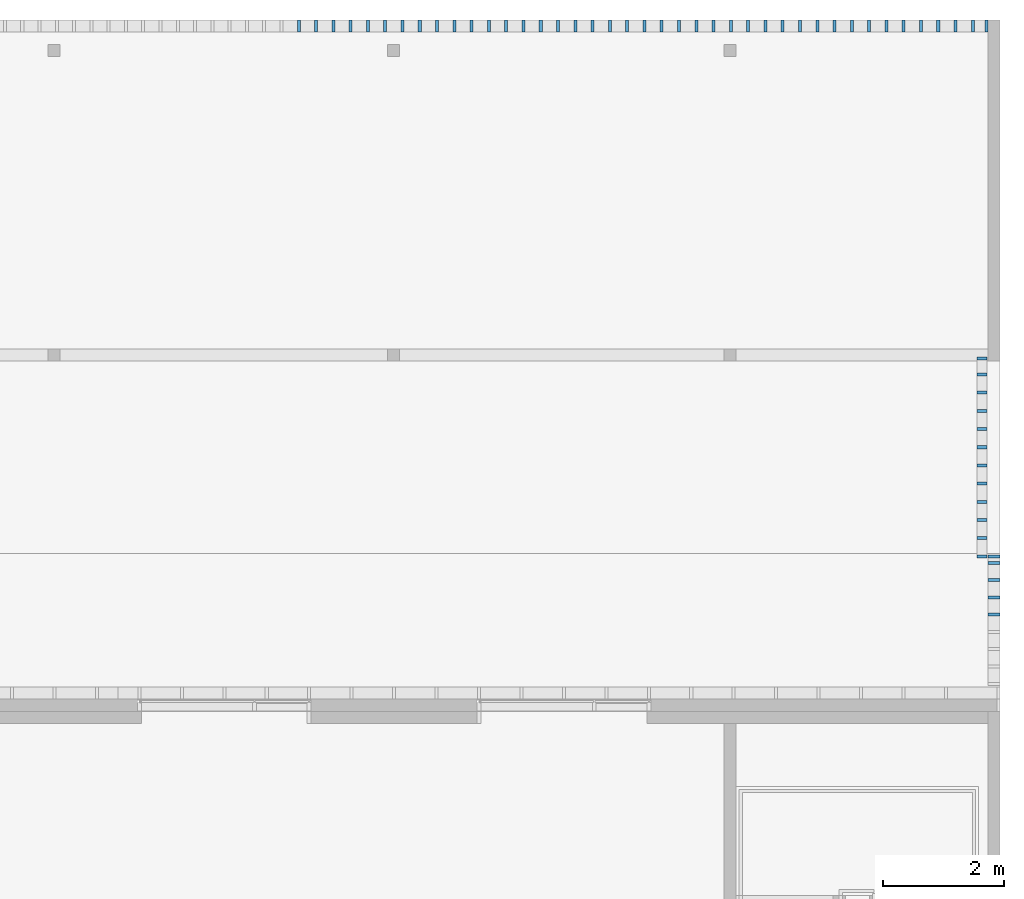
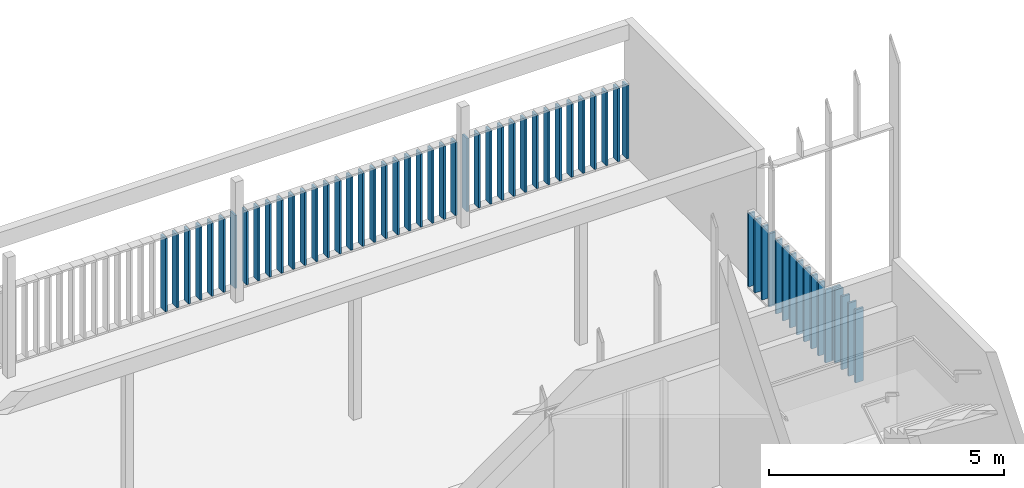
# One storey, part 30 of 240: 58 members, 3 elements without a shape of their own.
"""IFC2X3 building model written with IfcOpenShell, lengths in centimetres."""

from ifc_helpers import new_model, entity, si_unit, converted_unit, derived_unit, direction, frame, origin, origin_2d_with_axis, place, context, subcontext, project, spatial, rectangle, extrude, source, transform, mapped, material, type_object, type_shapes, element, aggregate, save


model = new_model("IFC2X3")

# Units and contexts
model_context = context("Model", 3, precision=0.001, world=origin(), true_north=direction((6.12303176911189e-17, 1.0)))
body_context = subcontext(model_context, "Body", "Model", "MODEL_VIEW")
ifc_project = project(units=[si_unit("LENGTHUNIT", "METRE", prefix="CENTI"), si_unit("AREAUNIT", "SQUARE_METRE"), si_unit("VOLUMEUNIT", "CUBIC_METRE"), converted_unit("PLANEANGLEUNIT", "DEGREE", entity("IfcRatioMeasure", 0.0174532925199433), si_unit("PLANEANGLEUNIT", "RADIAN"), dimensions=[0, 0, 0, 0, 0, 0, 0]), si_unit("MASSUNIT", "GRAM", prefix="KILO"), derived_unit("MASSDENSITYUNIT", [(si_unit("MASSUNIT", "GRAM", prefix="KILO"), 1), (si_unit("LENGTHUNIT", "METRE"), -3)]), si_unit("TIMEUNIT", "SECOND"), si_unit("FREQUENCYUNIT", "HERTZ"), si_unit("THERMODYNAMICTEMPERATUREUNIT", "DEGREE_CELSIUS"), derived_unit("THERMALTRANSMITTANCEUNIT", [(si_unit("MASSUNIT", "GRAM", prefix="KILO"), 1), (si_unit("THERMODYNAMICTEMPERATUREUNIT", "KELVIN"), -1), (si_unit("TIMEUNIT", "SECOND"), -3)]), derived_unit("VOLUMETRICFLOWRATEUNIT", [(si_unit("LENGTHUNIT", "METRE"), 3), (si_unit("TIMEUNIT", "SECOND"), -1)]), si_unit("ELECTRICCURRENTUNIT", "AMPERE"), si_unit("ELECTRICVOLTAGEUNIT", "VOLT"), si_unit("POWERUNIT", "WATT"), si_unit("FORCEUNIT", "NEWTON", prefix="KILO"), si_unit("ILLUMINANCEUNIT", "LUX"), si_unit("LUMINOUSFLUXUNIT", "LUMEN"), si_unit("LUMINOUSINTENSITYUNIT", "CANDELA"), derived_unit("USERDEFINED", [(si_unit("MASSUNIT", "GRAM", prefix="KILO"), -1), (si_unit("LENGTHUNIT", "METRE"), -2), (si_unit("TIMEUNIT", "SECOND"), 3), (si_unit("LUMINOUSFLUXUNIT", "LUMEN"), 1)]), derived_unit("LINEARVELOCITYUNIT", [(si_unit("LENGTHUNIT", "METRE"), 1), (si_unit("TIMEUNIT", "SECOND"), -1)]), si_unit("PRESSUREUNIT", "PASCAL"), derived_unit("USERDEFINED", [(si_unit("LENGTHUNIT", "METRE"), -2), (si_unit("MASSUNIT", "GRAM", prefix="KILO"), 1), (si_unit("TIMEUNIT", "SECOND"), -2)])], contexts=[model_context])

# Site, building, storey
site_placement = place(None, frame((-2781.94577612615, 7442.24238424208, 0.0)))
site = spatial("IfcSite", under=ifc_project, at=site_placement, Name="Default", CompositionType="ELEMENT")
building_placement = place(site_placement, origin())
building = spatial("IfcBuilding", under=site, at=building_placement, CompositionType="ELEMENT")
storey_placement = place(building_placement, origin())
storey = spatial("IfcBuildingStorey", under=building, at=storey_placement, Name="N00 - COO", CompositionType="ELEMENT", Elevation=0.0)

# Curtain wall, members
curtain_wall_type_1 = type_object("IfcCurtainWallType", Name="Mur-rideau:SR-Clôture", PredefinedType="NOTDEFINED")
curtain_wall_1_placement = place(building_placement, origin())
curtain_wall_1 = element("IfcCurtainWall", 1, at=curtain_wall_1_placement, inside=storey, type_object=curtain_wall_type_1, Name="Mur-rideau:SR-Clôture", ObjectType="Mur-rideau:SR-Clôture")
ifc_material = material(Name="Aluminium")
member_type_1 = type_object("IfcMemberType", Name="Epine nord (200x50 mm)", PredefinedType="MEMBER")
shared_shape_1 = source(origin(), body_context, "Body", "SweptSolid", [
    extrude(rectangle(XDim=20.0, YDim=5.0, at=origin_2d_with_axis()), frame((0.0, 0.0, -190.0), z_axis=(0.0, 0.0, 1.0), x_axis=(0.0, -1.0, 0.0)), (0.0, 0.0, 1.0), 190.0),
])
type_shapes(member_type_1, [shared_shape_1])
member_1_placement = place(building_placement, frame((-1546.49987965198, 40.0, 5.0), z_axis=(0.0, 0.0, -1.0), x_axis=(1.0, 0.0, 0.0)))
member_1 = element("IfcMember", 2, at=member_1_placement, type_object=member_type_1, material=ifc_material, Name="Meneau rectangulaire:Epine nord (200x50 mm)", ObjectType="Meneau rectangulaire:Epine nord (200x50 mm)", context=body_context, shape_type="MappedRepresentation", body=[
    mapped(shared_shape_1, transform((0.0, 0.0, 0.0), scale=1.0)),
])
member_2_placement = place(building_placement, frame((-1517.99987965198, 40.0, 5.0), z_axis=(0.0, 0.0, -1.0), x_axis=(1.0, 0.0, 0.0)))
member_2 = element("IfcMember", 3, at=member_2_placement, type_object=member_type_1, material=ifc_material, Name="Meneau rectangulaire:Epine nord (200x50 mm)", ObjectType="Meneau rectangulaire:Epine nord (200x50 mm)", context=body_context, shape_type="MappedRepresentation", body=[
    mapped(shared_shape_1, transform((0.0, 0.0, 0.0), scale=1.0)),
])
member_3_placement = place(building_placement, frame((-1489.49987965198, 40.0, 5.0), z_axis=(0.0, 0.0, -1.0), x_axis=(1.0, 0.0, 0.0)))
member_3 = element("IfcMember", 4, at=member_3_placement, type_object=member_type_1, material=ifc_material, Name="Meneau rectangulaire:Epine nord (200x50 mm)", ObjectType="Meneau rectangulaire:Epine nord (200x50 mm)", context=body_context, shape_type="MappedRepresentation", body=[
    mapped(shared_shape_1, transform((0.0, 0.0, 0.0), scale=1.0)),
])
member_4_placement = place(building_placement, frame((-1460.99987965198, 40.0, 5.0), z_axis=(0.0, 0.0, -1.0), x_axis=(1.0, 0.0, 0.0)))
member_4 = element("IfcMember", 5, at=member_4_placement, type_object=member_type_1, material=ifc_material, Name="Meneau rectangulaire:Epine nord (200x50 mm)", ObjectType="Meneau rectangulaire:Epine nord (200x50 mm)", context=body_context, shape_type="MappedRepresentation", body=[
    mapped(shared_shape_1, transform((0.0, 0.0, 0.0), scale=1.0)),
])
member_5_placement = place(building_placement, frame((-1432.49987965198, 40.0, 5.0), z_axis=(0.0, 0.0, -1.0), x_axis=(1.0, 0.0, 0.0)))
member_5 = element("IfcMember", 6, at=member_5_placement, type_object=member_type_1, material=ifc_material, Name="Meneau rectangulaire:Epine nord (200x50 mm)", ObjectType="Meneau rectangulaire:Epine nord (200x50 mm)", context=body_context, shape_type="MappedRepresentation", body=[
    mapped(shared_shape_1, transform((0.0, 0.0, 0.0), scale=1.0)),
])
member_6_placement = place(building_placement, frame((-1403.99987965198, 40.0, 5.0), z_axis=(0.0, 0.0, -1.0), x_axis=(1.0, 0.0, 0.0)))
member_6 = element("IfcMember", 7, at=member_6_placement, type_object=member_type_1, material=ifc_material, Name="Meneau rectangulaire:Epine nord (200x50 mm)", ObjectType="Meneau rectangulaire:Epine nord (200x50 mm)", context=body_context, shape_type="MappedRepresentation", body=[
    mapped(shared_shape_1, transform((0.0, 0.0, 0.0), scale=1.0)),
])
member_7_placement = place(building_placement, frame((-1375.49987965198, 40.0, 5.0), z_axis=(0.0, 0.0, -1.0), x_axis=(1.0, 0.0, 0.0)))
member_7 = element("IfcMember", 8, at=member_7_placement, type_object=member_type_1, material=ifc_material, Name="Meneau rectangulaire:Epine nord (200x50 mm)", ObjectType="Meneau rectangulaire:Epine nord (200x50 mm)", context=body_context, shape_type="MappedRepresentation", body=[
    mapped(shared_shape_1, transform((0.0, 0.0, 0.0), scale=1.0)),
])
member_8_placement = place(building_placement, frame((-1346.99987965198, 40.0, 5.0), z_axis=(0.0, 0.0, -1.0), x_axis=(1.0, 0.0, 0.0)))
member_8 = element("IfcMember", 9, at=member_8_placement, type_object=member_type_1, material=ifc_material, Name="Meneau rectangulaire:Epine nord (200x50 mm)", ObjectType="Meneau rectangulaire:Epine nord (200x50 mm)", context=body_context, shape_type="MappedRepresentation", body=[
    mapped(shared_shape_1, transform((0.0, 0.0, 0.0), scale=1.0)),
])
member_9_placement = place(building_placement, frame((-1318.49987965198, 40.0, 5.0), z_axis=(0.0, 0.0, -1.0), x_axis=(1.0, 0.0, 0.0)))
member_9 = element("IfcMember", 10, at=member_9_placement, type_object=member_type_1, material=ifc_material, Name="Meneau rectangulaire:Epine nord (200x50 mm)", ObjectType="Meneau rectangulaire:Epine nord (200x50 mm)", context=body_context, shape_type="MappedRepresentation", body=[
    mapped(shared_shape_1, transform((0.0, 0.0, 0.0), scale=1.0)),
])
member_10_placement = place(building_placement, frame((-1289.99987965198, 40.0, 5.0), z_axis=(0.0, 0.0, -1.0), x_axis=(1.0, 0.0, 0.0)))
member_10 = element("IfcMember", 11, at=member_10_placement, type_object=member_type_1, material=ifc_material, Name="Meneau rectangulaire:Epine nord (200x50 mm)", ObjectType="Meneau rectangulaire:Epine nord (200x50 mm)", context=body_context, shape_type="MappedRepresentation", body=[
    mapped(shared_shape_1, transform((0.0, 0.0, 0.0), scale=1.0)),
])
member_11_placement = place(building_placement, frame((-1261.49987965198, 40.0, 5.0), z_axis=(0.0, 0.0, -1.0), x_axis=(1.0, 0.0, 0.0)))
member_11 = element("IfcMember", 12, at=member_11_placement, type_object=member_type_1, material=ifc_material, Name="Meneau rectangulaire:Epine nord (200x50 mm)", ObjectType="Meneau rectangulaire:Epine nord (200x50 mm)", context=body_context, shape_type="MappedRepresentation", body=[
    mapped(shared_shape_1, transform((0.0, 0.0, 0.0), scale=1.0)),
])
member_12_placement = place(building_placement, frame((-1232.99987965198, 40.0, 5.0), z_axis=(0.0, 0.0, -1.0), x_axis=(1.0, 0.0, 0.0)))
member_12 = element("IfcMember", 13, at=member_12_placement, type_object=member_type_1, material=ifc_material, Name="Meneau rectangulaire:Epine nord (200x50 mm)", ObjectType="Meneau rectangulaire:Epine nord (200x50 mm)", context=body_context, shape_type="MappedRepresentation", body=[
    mapped(shared_shape_1, transform((0.0, 0.0, 0.0), scale=1.0)),
])
member_13_placement = place(building_placement, frame((-1204.49987965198, 40.0, 5.0), z_axis=(0.0, 0.0, -1.0), x_axis=(1.0, 0.0, 0.0)))
member_13 = element("IfcMember", 14, at=member_13_placement, type_object=member_type_1, material=ifc_material, Name="Meneau rectangulaire:Epine nord (200x50 mm)", ObjectType="Meneau rectangulaire:Epine nord (200x50 mm)", context=body_context, shape_type="MappedRepresentation", body=[
    mapped(shared_shape_1, transform((0.0, 0.0, 0.0), scale=1.0)),
])
member_14_placement = place(building_placement, frame((-1175.99987965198, 40.0, 5.0), z_axis=(0.0, 0.0, -1.0), x_axis=(1.0, 0.0, 0.0)))
member_14 = element("IfcMember", 15, at=member_14_placement, type_object=member_type_1, material=ifc_material, Name="Meneau rectangulaire:Epine nord (200x50 mm)", ObjectType="Meneau rectangulaire:Epine nord (200x50 mm)", context=body_context, shape_type="MappedRepresentation", body=[
    mapped(shared_shape_1, transform((0.0, 0.0, 0.0), scale=1.0)),
])
member_15_placement = place(building_placement, frame((-1147.49987965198, 40.0, 5.0), z_axis=(0.0, 0.0, -1.0), x_axis=(1.0, 0.0, 0.0)))
member_15 = element("IfcMember", 16, at=member_15_placement, type_object=member_type_1, material=ifc_material, Name="Meneau rectangulaire:Epine nord (200x50 mm)", ObjectType="Meneau rectangulaire:Epine nord (200x50 mm)", context=body_context, shape_type="MappedRepresentation", body=[
    mapped(shared_shape_1, transform((0.0, 0.0, 0.0), scale=1.0)),
])
member_16_placement = place(building_placement, frame((-1118.99987965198, 40.0, 5.0), z_axis=(0.0, 0.0, -1.0), x_axis=(1.0, 0.0, 0.0)))
member_16 = element("IfcMember", 17, at=member_16_placement, type_object=member_type_1, material=ifc_material, Name="Meneau rectangulaire:Epine nord (200x50 mm)", ObjectType="Meneau rectangulaire:Epine nord (200x50 mm)", context=body_context, shape_type="MappedRepresentation", body=[
    mapped(shared_shape_1, transform((0.0, 0.0, 0.0), scale=1.0)),
])
member_17_placement = place(building_placement, frame((-1090.49987965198, 40.0, 5.0), z_axis=(0.0, 0.0, -1.0), x_axis=(1.0, 0.0, 0.0)))
member_17 = element("IfcMember", 18, at=member_17_placement, type_object=member_type_1, material=ifc_material, Name="Meneau rectangulaire:Epine nord (200x50 mm)", ObjectType="Meneau rectangulaire:Epine nord (200x50 mm)", context=body_context, shape_type="MappedRepresentation", body=[
    mapped(shared_shape_1, transform((0.0, 0.0, 0.0), scale=1.0)),
])
member_18_placement = place(building_placement, frame((-1061.99987965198, 40.0, 5.0), z_axis=(0.0, 0.0, -1.0), x_axis=(1.0, 0.0, 0.0)))
member_18 = element("IfcMember", 19, at=member_18_placement, type_object=member_type_1, material=ifc_material, Name="Meneau rectangulaire:Epine nord (200x50 mm)", ObjectType="Meneau rectangulaire:Epine nord (200x50 mm)", context=body_context, shape_type="MappedRepresentation", body=[
    mapped(shared_shape_1, transform((0.0, 0.0, 0.0), scale=1.0)),
])
member_19_placement = place(building_placement, frame((-1033.49987965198, 40.0, 5.0), z_axis=(0.0, 0.0, -1.0), x_axis=(1.0, 0.0, 0.0)))
member_19 = element("IfcMember", 20, at=member_19_placement, type_object=member_type_1, material=ifc_material, Name="Meneau rectangulaire:Epine nord (200x50 mm)", ObjectType="Meneau rectangulaire:Epine nord (200x50 mm)", context=body_context, shape_type="MappedRepresentation", body=[
    mapped(shared_shape_1, transform((0.0, 0.0, 0.0), scale=1.0)),
])
member_20_placement = place(building_placement, frame((-1004.99987965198, 40.0, 5.0), z_axis=(0.0, 0.0, -1.0), x_axis=(1.0, 0.0, 0.0)))
member_20 = element("IfcMember", 21, at=member_20_placement, type_object=member_type_1, material=ifc_material, Name="Meneau rectangulaire:Epine nord (200x50 mm)", ObjectType="Meneau rectangulaire:Epine nord (200x50 mm)", context=body_context, shape_type="MappedRepresentation", body=[
    mapped(shared_shape_1, transform((0.0, 0.0, 0.0), scale=1.0)),
])
member_21_placement = place(building_placement, frame((-976.499879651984, 40.0, 5.0), z_axis=(0.0, 0.0, -1.0), x_axis=(1.0, 0.0, 0.0)))
member_21 = element("IfcMember", 22, at=member_21_placement, type_object=member_type_1, material=ifc_material, Name="Meneau rectangulaire:Epine nord (200x50 mm)", ObjectType="Meneau rectangulaire:Epine nord (200x50 mm)", context=body_context, shape_type="MappedRepresentation", body=[
    mapped(shared_shape_1, transform((0.0, 0.0, 0.0), scale=1.0)),
])
member_22_placement = place(building_placement, frame((-947.999879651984, 40.0, 5.0), z_axis=(0.0, 0.0, -1.0), x_axis=(1.0, 0.0, 0.0)))
member_22 = element("IfcMember", 23, at=member_22_placement, type_object=member_type_1, material=ifc_material, Name="Meneau rectangulaire:Epine nord (200x50 mm)", ObjectType="Meneau rectangulaire:Epine nord (200x50 mm)", context=body_context, shape_type="MappedRepresentation", body=[
    mapped(shared_shape_1, transform((0.0, 0.0, 0.0), scale=1.0)),
])
member_23_placement = place(building_placement, frame((-919.499879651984, 40.0, 5.0), z_axis=(0.0, 0.0, -1.0), x_axis=(1.0, 0.0, 0.0)))
member_23 = element("IfcMember", 24, at=member_23_placement, type_object=member_type_1, material=ifc_material, Name="Meneau rectangulaire:Epine nord (200x50 mm)", ObjectType="Meneau rectangulaire:Epine nord (200x50 mm)", context=body_context, shape_type="MappedRepresentation", body=[
    mapped(shared_shape_1, transform((0.0, 0.0, 0.0), scale=1.0)),
])
member_24_placement = place(building_placement, frame((-890.999879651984, 40.0, 5.0), z_axis=(0.0, 0.0, -1.0), x_axis=(1.0, 0.0, 0.0)))
member_24 = element("IfcMember", 25, at=member_24_placement, type_object=member_type_1, material=ifc_material, Name="Meneau rectangulaire:Epine nord (200x50 mm)", ObjectType="Meneau rectangulaire:Epine nord (200x50 mm)", context=body_context, shape_type="MappedRepresentation", body=[
    mapped(shared_shape_1, transform((0.0, 0.0, 0.0), scale=1.0)),
])
member_25_placement = place(building_placement, frame((-862.499879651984, 40.0, 5.0), z_axis=(0.0, 0.0, -1.0), x_axis=(1.0, 0.0, 0.0)))
member_25 = element("IfcMember", 26, at=member_25_placement, type_object=member_type_1, material=ifc_material, Name="Meneau rectangulaire:Epine nord (200x50 mm)", ObjectType="Meneau rectangulaire:Epine nord (200x50 mm)", context=body_context, shape_type="MappedRepresentation", body=[
    mapped(shared_shape_1, transform((0.0, 0.0, 0.0), scale=1.0)),
])
member_26_placement = place(building_placement, frame((-833.999879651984, 40.0, 5.0), z_axis=(0.0, 0.0, -1.0), x_axis=(1.0, 0.0, 0.0)))
member_26 = element("IfcMember", 27, at=member_26_placement, type_object=member_type_1, material=ifc_material, Name="Meneau rectangulaire:Epine nord (200x50 mm)", ObjectType="Meneau rectangulaire:Epine nord (200x50 mm)", context=body_context, shape_type="MappedRepresentation", body=[
    mapped(shared_shape_1, transform((0.0, 0.0, 0.0), scale=1.0)),
])
member_27_placement = place(building_placement, frame((-805.499879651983, 40.0, 5.0), z_axis=(0.0, 0.0, -1.0), x_axis=(1.0, 0.0, 0.0)))
member_27 = element("IfcMember", 28, at=member_27_placement, type_object=member_type_1, material=ifc_material, Name="Meneau rectangulaire:Epine nord (200x50 mm)", ObjectType="Meneau rectangulaire:Epine nord (200x50 mm)", context=body_context, shape_type="MappedRepresentation", body=[
    mapped(shared_shape_1, transform((0.0, 0.0, 0.0), scale=1.0)),
])
member_28_placement = place(building_placement, frame((-776.999879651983, 40.0, 5.0), z_axis=(0.0, 0.0, -1.0), x_axis=(1.0, 0.0, 0.0)))
member_28 = element("IfcMember", 29, at=member_28_placement, type_object=member_type_1, material=ifc_material, Name="Meneau rectangulaire:Epine nord (200x50 mm)", ObjectType="Meneau rectangulaire:Epine nord (200x50 mm)", context=body_context, shape_type="MappedRepresentation", body=[
    mapped(shared_shape_1, transform((0.0, 0.0, 0.0), scale=1.0)),
])
member_29_placement = place(building_placement, frame((-748.499879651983, 40.0, 5.0), z_axis=(0.0, 0.0, -1.0), x_axis=(1.0, 0.0, 0.0)))
member_29 = element("IfcMember", 30, at=member_29_placement, type_object=member_type_1, material=ifc_material, Name="Meneau rectangulaire:Epine nord (200x50 mm)", ObjectType="Meneau rectangulaire:Epine nord (200x50 mm)", context=body_context, shape_type="MappedRepresentation", body=[
    mapped(shared_shape_1, transform((0.0, 0.0, 0.0), scale=1.0)),
])
member_30_placement = place(building_placement, frame((-719.999879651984, 40.0, 5.0), z_axis=(0.0, 0.0, -1.0), x_axis=(1.0, 0.0, 0.0)))
member_30 = element("IfcMember", 31, at=member_30_placement, type_object=member_type_1, material=ifc_material, Name="Meneau rectangulaire:Epine nord (200x50 mm)", ObjectType="Meneau rectangulaire:Epine nord (200x50 mm)", context=body_context, shape_type="MappedRepresentation", body=[
    mapped(shared_shape_1, transform((0.0, 0.0, 0.0), scale=1.0)),
])
member_31_placement = place(building_placement, frame((-691.499879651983, 40.0, 5.0), z_axis=(0.0, 0.0, -1.0), x_axis=(1.0, 0.0, 0.0)))
member_31 = element("IfcMember", 32, at=member_31_placement, type_object=member_type_1, material=ifc_material, Name="Meneau rectangulaire:Epine nord (200x50 mm)", ObjectType="Meneau rectangulaire:Epine nord (200x50 mm)", context=body_context, shape_type="MappedRepresentation", body=[
    mapped(shared_shape_1, transform((0.0, 0.0, 0.0), scale=1.0)),
])
member_32_placement = place(building_placement, frame((-662.999879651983, 40.0, 5.0), z_axis=(0.0, 0.0, -1.0), x_axis=(1.0, 0.0, 0.0)))
member_32 = element("IfcMember", 33, at=member_32_placement, type_object=member_type_1, material=ifc_material, Name="Meneau rectangulaire:Epine nord (200x50 mm)", ObjectType="Meneau rectangulaire:Epine nord (200x50 mm)", context=body_context, shape_type="MappedRepresentation", body=[
    mapped(shared_shape_1, transform((0.0, 0.0, 0.0), scale=1.0)),
])
member_33_placement = place(building_placement, frame((-634.499879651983, 40.0, 5.0), z_axis=(0.0, 0.0, -1.0), x_axis=(1.0, 0.0, 0.0)))
member_33 = element("IfcMember", 34, at=member_33_placement, type_object=member_type_1, material=ifc_material, Name="Meneau rectangulaire:Epine nord (200x50 mm)", ObjectType="Meneau rectangulaire:Epine nord (200x50 mm)", context=body_context, shape_type="MappedRepresentation", body=[
    mapped(shared_shape_1, transform((0.0, 0.0, 0.0), scale=1.0)),
])
member_34_placement = place(building_placement, frame((-605.999879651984, 40.0, 5.0), z_axis=(0.0, 0.0, -1.0), x_axis=(1.0, 0.0, 0.0)))
member_34 = element("IfcMember", 35, at=member_34_placement, type_object=member_type_1, material=ifc_material, Name="Meneau rectangulaire:Epine nord (200x50 mm)", ObjectType="Meneau rectangulaire:Epine nord (200x50 mm)", context=body_context, shape_type="MappedRepresentation", body=[
    mapped(shared_shape_1, transform((0.0, 0.0, 0.0), scale=1.0)),
])
member_35_placement = place(building_placement, frame((-577.499879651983, 40.0, 5.0), z_axis=(0.0, 0.0, -1.0), x_axis=(1.0, 0.0, 0.0)))
member_35 = element("IfcMember", 36, at=member_35_placement, type_object=member_type_1, material=ifc_material, Name="Meneau rectangulaire:Epine nord (200x50 mm)", ObjectType="Meneau rectangulaire:Epine nord (200x50 mm)", context=body_context, shape_type="MappedRepresentation", body=[
    mapped(shared_shape_1, transform((0.0, 0.0, 0.0), scale=1.0)),
])
member_36_placement = place(building_placement, frame((-548.999879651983, 40.0, 5.0), z_axis=(0.0, 0.0, -1.0), x_axis=(1.0, 0.0, 0.0)))
member_36 = element("IfcMember", 37, at=member_36_placement, type_object=member_type_1, material=ifc_material, Name="Meneau rectangulaire:Epine nord (200x50 mm)", ObjectType="Meneau rectangulaire:Epine nord (200x50 mm)", context=body_context, shape_type="MappedRepresentation", body=[
    mapped(shared_shape_1, transform((0.0, 0.0, 0.0), scale=1.0)),
])
member_37_placement = place(building_placement, frame((-520.499879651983, 40.0, 5.0), z_axis=(0.0, 0.0, -1.0), x_axis=(1.0, 0.0, 0.0)))
member_37 = element("IfcMember", 38, at=member_37_placement, type_object=member_type_1, material=ifc_material, Name="Meneau rectangulaire:Epine nord (200x50 mm)", ObjectType="Meneau rectangulaire:Epine nord (200x50 mm)", context=body_context, shape_type="MappedRepresentation", body=[
    mapped(shared_shape_1, transform((0.0, 0.0, 0.0), scale=1.0)),
])
member_38_placement = place(building_placement, frame((-491.999879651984, 40.0, 5.0), z_axis=(0.0, 0.0, -1.0), x_axis=(1.0, 0.0, 0.0)))
member_38 = element("IfcMember", 39, at=member_38_placement, type_object=member_type_1, material=ifc_material, Name="Meneau rectangulaire:Epine nord (200x50 mm)", ObjectType="Meneau rectangulaire:Epine nord (200x50 mm)", context=body_context, shape_type="MappedRepresentation", body=[
    mapped(shared_shape_1, transform((0.0, 0.0, 0.0), scale=1.0)),
])
member_39_placement = place(building_placement, frame((-463.499879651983, 40.0, 5.0), z_axis=(0.0, 0.0, -1.0), x_axis=(1.0, 0.0, 0.0)))
member_39 = element("IfcMember", 40, at=member_39_placement, type_object=member_type_1, material=ifc_material, Name="Meneau rectangulaire:Epine nord (200x50 mm)", ObjectType="Meneau rectangulaire:Epine nord (200x50 mm)", context=body_context, shape_type="MappedRepresentation", body=[
    mapped(shared_shape_1, transform((0.0, 0.0, 0.0), scale=1.0)),
])
member_40_placement = place(building_placement, frame((-434.999879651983, 40.0, 5.0), z_axis=(0.0, 0.0, -1.0), x_axis=(1.0, 0.0, 0.0)))
member_40 = element("IfcMember", 41, at=member_40_placement, type_object=member_type_1, material=ifc_material, Name="Meneau rectangulaire:Epine nord (200x50 mm)", ObjectType="Meneau rectangulaire:Epine nord (200x50 mm)", context=body_context, shape_type="MappedRepresentation", body=[
    mapped(shared_shape_1, transform((0.0, 0.0, 0.0), scale=1.0)),
])

curtain_wall_2_placement = place(building_placement, origin())
curtain_wall_2 = element("IfcCurtainWall", 42, at=curtain_wall_2_placement, inside=storey, type_object=curtain_wall_type_1, Name="Mur-rideau:SR-Clôture", ObjectType="Mur-rideau:SR-Clôture")
member_41_placement = place(building_placement, frame((-399.999882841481, -930.548500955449, 5.0), z_axis=(0.0, 0.0, -1.0), x_axis=(0.0, 1.0, 0.0)))
member_41 = element("IfcMember", 43, at=member_41_placement, type_object=member_type_1, material=ifc_material, Name="Meneau rectangulaire:Epine nord (200x50 mm)", ObjectType="Meneau rectangulaire:Epine nord (200x50 mm)", context=body_context, shape_type="MappedRepresentation", body=[
    mapped(shared_shape_1, transform((0.0, 0.0, 0.0), scale=1.0)),
])
member_42_placement = place(building_placement, frame((-399.999882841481, -902.048500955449, 5.0), z_axis=(0.0, 0.0, -1.0), x_axis=(0.0, 1.0, 0.0)))
member_42 = element("IfcMember", 44, at=member_42_placement, type_object=member_type_1, material=ifc_material, Name="Meneau rectangulaire:Epine nord (200x50 mm)", ObjectType="Meneau rectangulaire:Epine nord (200x50 mm)", context=body_context, shape_type="MappedRepresentation", body=[
    mapped(shared_shape_1, transform((0.0, 0.0, 0.0), scale=1.0)),
])
member_43_placement = place(building_placement, frame((-399.999882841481, -873.548500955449, 5.0), z_axis=(0.0, 0.0, -1.0), x_axis=(0.0, 1.0, 0.0)))
member_43 = element("IfcMember", 45, at=member_43_placement, type_object=member_type_1, material=ifc_material, Name="Meneau rectangulaire:Epine nord (200x50 mm)", ObjectType="Meneau rectangulaire:Epine nord (200x50 mm)", context=body_context, shape_type="MappedRepresentation", body=[
    mapped(shared_shape_1, transform((0.0, 0.0, 0.0), scale=1.0)),
])
member_44_placement = place(building_placement, frame((-399.999882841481, -845.048500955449, 5.0), z_axis=(0.0, 0.0, -1.0), x_axis=(0.0, 1.0, 0.0)))
member_44 = element("IfcMember", 46, at=member_44_placement, type_object=member_type_1, material=ifc_material, Name="Meneau rectangulaire:Epine nord (200x50 mm)", ObjectType="Meneau rectangulaire:Epine nord (200x50 mm)", context=body_context, shape_type="MappedRepresentation", body=[
    mapped(shared_shape_1, transform((0.0, 0.0, 0.0), scale=1.0)),
])

# Member
member_type_2 = type_object("IfcMemberType", Name="Epine nord (200x50 mm)", PredefinedType="MEMBER")
shared_shape_2 = source(origin(), body_context, "Body", "SweptSolid", [
    extrude(rectangle(XDim=20.0, YDim=5.0, at=origin_2d_with_axis()), frame((-2.5, 0.0, -190.0), z_axis=(0.0, 0.0, 1.0), x_axis=(0.0, -1.0, 0.0)), (0.0, 0.0, 1.0), 190.0),
])
type_shapes(member_type_2, [shared_shape_2])
member_45_placement = place(building_placement, frame((-409.99988284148, 40.0, 5.0), z_axis=(0.0, 0.0, -1.0), x_axis=(1.0, 0.0, 0.0)))
member_45 = element("IfcMember", 47, at=member_45_placement, type_object=member_type_2, material=ifc_material, Name="Meneau rectangulaire:Epine nord (200x50 mm)", ObjectType="Meneau rectangulaire:Epine nord (200x50 mm)", context=body_context, shape_type="MappedRepresentation", body=[
    mapped(shared_shape_2, transform((0.0, 0.0, 0.0), scale=1.0)),
])

aggregate(curtain_wall_1, [member_1, member_2, member_3, member_4, member_5, member_6, member_7, member_8, member_9, member_10, member_11, member_12, member_13, member_14, member_15, member_16, member_17, member_18, member_19, member_20, member_21, member_22, member_23, member_24, member_25, member_26, member_27, member_28, member_29, member_30, member_31, member_32, member_33, member_45, member_34, member_35, member_36, member_37, member_38, member_39, member_40])

member_46_placement = place(building_placement, frame((-399.999882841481, -832.048500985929, 5.0), z_axis=(0.0, 0.0, -1.0), x_axis=(0.0, 1.0, 0.0)))
member_46 = element("IfcMember", 48, at=member_46_placement, type_object=member_type_2, material=ifc_material, Name="Meneau rectangulaire:Epine nord (200x50 mm)", ObjectType="Meneau rectangulaire:Epine nord (200x50 mm)", context=body_context, shape_type="MappedRepresentation", body=[
    mapped(shared_shape_2, transform((0.0, 0.0, 0.0), scale=1.0)),
])

aggregate(curtain_wall_2, [member_46, member_41, member_42, member_43, member_44])

# Curtain wall, members
curtain_wall_type_2 = type_object("IfcCurtainWallType", Name="Mur-SR", PredefinedType="NOTDEFINED")
curtain_wall_3_placement = place(storey_placement, origin())
curtain_wall_3 = element("IfcCurtainWall", 49, at=curtain_wall_3_placement, inside=storey, type_object=curtain_wall_type_2, Name="Mur-SR", ObjectType="Mur-SR")
member_type_3 = type_object("IfcMemberType", Name="Epine nord (160x50 mm)", PredefinedType="MEMBER")
shared_shape_3 = source(origin(), body_context, "Body", "SweptSolid", [
    extrude(rectangle(XDim=16.0, YDim=5.0, at=origin_2d_with_axis()), frame((0.0, 0.0, -190.0), z_axis=(0.0, 0.0, 1.0), x_axis=(0.0, -1.0, 0.0)), (0.0, 0.0, 1.0), 190.0),
])
type_shapes(member_type_3, [shared_shape_3])
member_47_placement = place(storey_placement, frame((-419.999882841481, -804.548500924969, 5.0), z_axis=(0.0, 0.0, -1.0), x_axis=(0.0, 1.0, 0.0)))
member_47 = element("IfcMember", 50, at=member_47_placement, type_object=member_type_3, material=ifc_material, Name="Meneau rectangulaire:Epine nord (160x50 mm)", ObjectType="Meneau rectangulaire:Epine nord (160x50 mm)", context=body_context, shape_type="MappedRepresentation", body=[
    mapped(shared_shape_3, transform((0.0, 0.0, 0.0), scale=1.0)),
])
member_48_placement = place(storey_placement, frame((-419.999882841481, -774.548500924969, 5.0), z_axis=(0.0, 0.0, -1.0), x_axis=(0.0, 1.0, 0.0)))
member_48 = element("IfcMember", 51, at=member_48_placement, type_object=member_type_3, material=ifc_material, Name="Meneau rectangulaire:Epine nord (160x50 mm)", ObjectType="Meneau rectangulaire:Epine nord (160x50 mm)", context=body_context, shape_type="MappedRepresentation", body=[
    mapped(shared_shape_3, transform((0.0, 0.0, 0.0), scale=1.0)),
])
member_49_placement = place(storey_placement, frame((-419.999882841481, -744.548500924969, 5.0), z_axis=(0.0, 0.0, -1.0), x_axis=(0.0, 1.0, 0.0)))
member_49 = element("IfcMember", 52, at=member_49_placement, type_object=member_type_3, material=ifc_material, Name="Meneau rectangulaire:Epine nord (160x50 mm)", ObjectType="Meneau rectangulaire:Epine nord (160x50 mm)", context=body_context, shape_type="MappedRepresentation", body=[
    mapped(shared_shape_3, transform((0.0, 0.0, 0.0), scale=1.0)),
])
member_50_placement = place(storey_placement, frame((-419.999882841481, -714.548500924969, 5.0), z_axis=(0.0, 0.0, -1.0), x_axis=(0.0, 1.0, 0.0)))
member_50 = element("IfcMember", 53, at=member_50_placement, type_object=member_type_3, material=ifc_material, Name="Meneau rectangulaire:Epine nord (160x50 mm)", ObjectType="Meneau rectangulaire:Epine nord (160x50 mm)", context=body_context, shape_type="MappedRepresentation", body=[
    mapped(shared_shape_3, transform((0.0, 0.0, 0.0), scale=1.0)),
])
member_51_placement = place(storey_placement, frame((-419.999882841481, -684.548500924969, 5.0), z_axis=(0.0, 0.0, -1.0), x_axis=(0.0, 1.0, 0.0)))
member_51 = element("IfcMember", 54, at=member_51_placement, type_object=member_type_3, material=ifc_material, Name="Meneau rectangulaire:Epine nord (160x50 mm)", ObjectType="Meneau rectangulaire:Epine nord (160x50 mm)", context=body_context, shape_type="MappedRepresentation", body=[
    mapped(shared_shape_3, transform((0.0, 0.0, 0.0), scale=1.0)),
])
member_52_placement = place(storey_placement, frame((-419.999882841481, -654.548500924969, 5.0), z_axis=(0.0, 0.0, -1.0), x_axis=(0.0, 1.0, 0.0)))
member_52 = element("IfcMember", 55, at=member_52_placement, type_object=member_type_3, material=ifc_material, Name="Meneau rectangulaire:Epine nord (160x50 mm)", ObjectType="Meneau rectangulaire:Epine nord (160x50 mm)", context=body_context, shape_type="MappedRepresentation", body=[
    mapped(shared_shape_3, transform((0.0, 0.0, 0.0), scale=1.0)),
])
member_53_placement = place(storey_placement, frame((-419.999882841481, -624.548500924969, 5.0), z_axis=(0.0, 0.0, -1.0), x_axis=(0.0, 1.0, 0.0)))
member_53 = element("IfcMember", 56, at=member_53_placement, type_object=member_type_3, material=ifc_material, Name="Meneau rectangulaire:Epine nord (160x50 mm)", ObjectType="Meneau rectangulaire:Epine nord (160x50 mm)", context=body_context, shape_type="MappedRepresentation", body=[
    mapped(shared_shape_3, transform((0.0, 0.0, 0.0), scale=1.0)),
])
member_54_placement = place(storey_placement, frame((-419.999882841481, -594.548500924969, 5.0), z_axis=(0.0, 0.0, -1.0), x_axis=(0.0, 1.0, 0.0)))
member_54 = element("IfcMember", 57, at=member_54_placement, type_object=member_type_3, material=ifc_material, Name="Meneau rectangulaire:Epine nord (160x50 mm)", ObjectType="Meneau rectangulaire:Epine nord (160x50 mm)", context=body_context, shape_type="MappedRepresentation", body=[
    mapped(shared_shape_3, transform((0.0, 0.0, 0.0), scale=1.0)),
])
member_55_placement = place(storey_placement, frame((-419.999882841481, -564.548500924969, 5.0), z_axis=(0.0, 0.0, -1.0), x_axis=(0.0, 1.0, 0.0)))
member_55 = element("IfcMember", 58, at=member_55_placement, type_object=member_type_3, material=ifc_material, Name="Meneau rectangulaire:Epine nord (160x50 mm)", ObjectType="Meneau rectangulaire:Epine nord (160x50 mm)", context=body_context, shape_type="MappedRepresentation", body=[
    mapped(shared_shape_3, transform((0.0, 0.0, 0.0), scale=1.0)),
])
member_56_placement = place(storey_placement, frame((-419.999882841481, -534.548500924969, 5.0), z_axis=(0.0, 0.0, -1.0), x_axis=(0.0, 1.0, 0.0)))
member_56 = element("IfcMember", 59, at=member_56_placement, type_object=member_type_3, material=ifc_material, Name="Meneau rectangulaire:Epine nord (160x50 mm)", ObjectType="Meneau rectangulaire:Epine nord (160x50 mm)", context=body_context, shape_type="MappedRepresentation", body=[
    mapped(shared_shape_3, transform((0.0, 0.0, 0.0), scale=1.0)),
])
member_type_4 = type_object("IfcMemberType", Name="Epine nord (160x50 mm)", PredefinedType="MEMBER")
shared_shape_4 = source(origin(), body_context, "Body", "SweptSolid", [
    extrude(rectangle(XDim=16.0, YDim=5.0, at=origin_2d_with_axis()), frame((-2.5, 0.0, -190.0), z_axis=(0.0, 0.0, 1.0), x_axis=(0.0, -1.0, 0.0)), (0.0, 0.0, 1.0), 190.0),
])
type_shapes(member_type_4, [shared_shape_4])
member_57_placement = place(storey_placement, frame((-419.999882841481, -505.548500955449, 5.0), z_axis=(0.0, 0.0, -1.0), x_axis=(0.0, 1.0, 0.0)))
member_57 = element("IfcMember", 60, at=member_57_placement, type_object=member_type_4, material=ifc_material, Name="Meneau rectangulaire:Epine nord (160x50 mm)", ObjectType="Meneau rectangulaire:Epine nord (160x50 mm)", context=body_context, shape_type="MappedRepresentation", body=[
    mapped(shared_shape_4, transform((0.0, 0.0, 0.0), scale=1.0)),
])
member_type_5 = type_object("IfcMemberType", Name="Epine nord (160x50 mm)", PredefinedType="MEMBER")
shared_shape_5 = source(origin(), body_context, "Body", "SweptSolid", [
    extrude(rectangle(XDim=16.0, YDim=5.0, at=origin_2d_with_axis()), frame((-2.5, 0.0, -190.0), z_axis=(0.0, 0.0, 1.0), x_axis=(0.0, -1.0, 0.0)), (0.0, 0.0, 1.0), 190.0),
])
type_shapes(member_type_5, [shared_shape_5])
member_58_placement = place(storey_placement, frame((-419.999882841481, -837.048500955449, 195.0), z_axis=(0.0, 0.0, 1.0), x_axis=(0.0, -1.0, 0.0)))
member_58 = element("IfcMember", 61, at=member_58_placement, type_object=member_type_5, material=ifc_material, Name="Meneau rectangulaire:Epine nord (160x50 mm)", ObjectType="Meneau rectangulaire:Epine nord (160x50 mm)", context=body_context, shape_type="MappedRepresentation", body=[
    mapped(shared_shape_5, transform((0.0, 0.0, 0.0), scale=1.0)),
])
aggregate(curtain_wall_3, [member_57, member_58, member_47, member_48, member_49, member_50, member_51, member_52, member_53, member_54, member_55, member_56])

save(model, "model.ifc")
